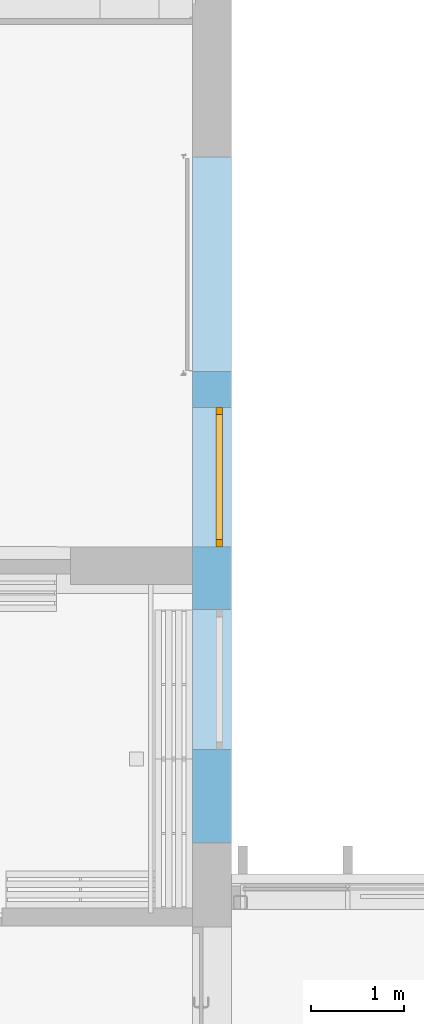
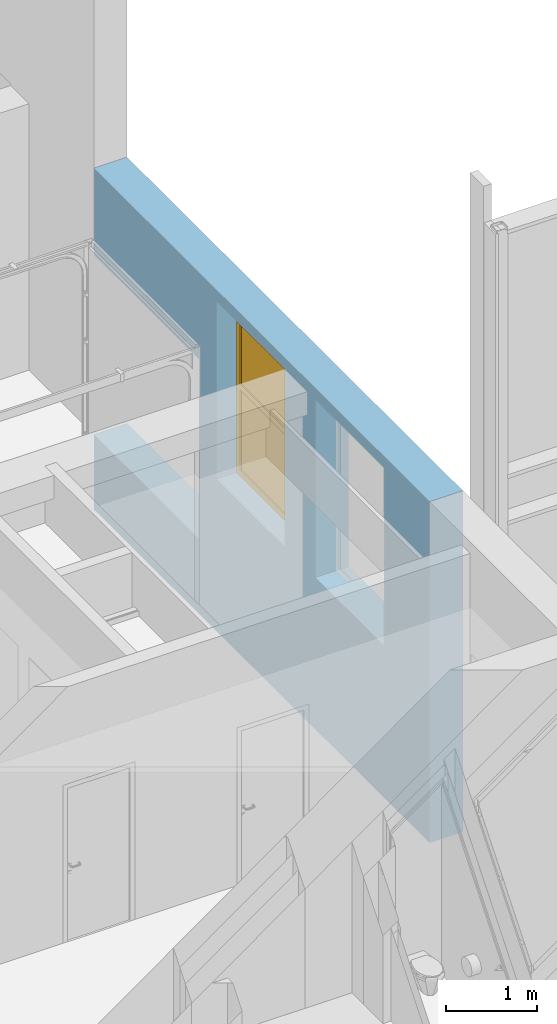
# One storey, part 95 of 301: 1 window, 5 openings, plus 1 element that does not belong to this part.
"""IFC2X3 building model written with IfcOpenShell, lengths in millimetres."""

import ifcopenshell
import ifcopenshell.guid

model = None  # the IFC model being written
_history = None  # IfcOwnerHistory: only IFC2X3 demands one
_inside = {}  # id of a spatial element -> (the spatial element, [elements in it])
_under = {}  # id of a project, library or spatial element -> (it, [spatial elements below it])
_declared = {}  # id of a project -> (the project, [libraries it declares])
_typed = {}  # id of a type object -> (the type object, [elements of that type])
_made_of = {}  # id of a material, layer set ... -> (it, [elements and type objects made of it])


def new_model(schema):
    """Start an empty IFC model of exactly this schema.

    Asked for "IFC4X3", IfcOpenShell would pick the latest addendum, in which some entities
    have other attributes; the version numbers below select the first issue.
    IFC2X3 requires an IfcOwnerHistory on every rooted entity: one is made here for all.
    """
    global model, _history
    if schema == "IFC4X3":
        model = ifcopenshell.file(schema_version=(4, 3, 0, 0))
    else:
        model = ifcopenshell.file(schema=schema)
    _inside.clear()
    _under.clear()
    _declared.clear()
    _typed.clear()
    _made_of.clear()
    _history = None
    if model.schema == "IFC2X3":
        org = make("IfcOrganization", Name="unknown")
        user = make(
            "IfcPersonAndOrganization",
            ThePerson=make("IfcPerson", FamilyName="unknown"),
            TheOrganization=org,
        )
        app = make(
            "IfcApplication",
            ApplicationDeveloper=org,
            Version="unknown",
            ApplicationFullName="unknown",
            ApplicationIdentifier="unknown",
        )
        _history = make(
            "IfcOwnerHistory",
            OwningUser=user,
            OwningApplication=app,
            ChangeAction="ADDED",
            CreationDate=0,
        )
    return model


def make(cls, **values):
    """One entity of the class cls with the attributes given. An attribute that is None is left unset."""
    return model.create_entity(
        cls, **{name: value for name, value in values.items() if value is not None}
    )


def entity(cls, *values):
    """Any entity or typed value of the class cls, its attributes in the order of the schema. None: left unset."""
    e = model.create_entity(cls)
    for i, value in enumerate(values):
        if value is not None:
            e[i] = value
    return e


def rooted(cls, **values):
    """An entity with a GlobalId (a new one), such as an element, a storey or a relation."""
    return make(cls, GlobalId=ifcopenshell.guid.new(), OwnerHistory=_history, **values)


def si_unit(unit_type, name, prefix=None):
    """IfcSIUnit, for example si_unit("LENGTHUNIT", "METRE", prefix="MILLI")."""
    return make("IfcSIUnit", UnitType=unit_type, Prefix=prefix, Name=name)


def converted_unit(unit_type, name, factor, base, dimensions=None, offset=None):
    """IfcConversionBasedUnit, such as the inch: factor (a typed value) times the base unit."""
    return make(
        "IfcConversionBasedUnit"
        if offset is None
        else "IfcConversionBasedUnitWithOffset",
        ConversionOffset=offset,
        Dimensions=None
        if dimensions is None
        else entity("IfcDimensionalExponents", *dimensions),
        UnitType=unit_type,
        Name=name,
        ConversionFactor=make(
            "IfcMeasureWithUnit", ValueComponent=factor, UnitComponent=base
        ),
    )


def derived_unit(unit_type, elements):
    """IfcDerivedUnit: a product of units, each with its exponent."""
    return make(
        "IfcDerivedUnit",
        Elements=[
            make("IfcDerivedUnitElement", Unit=unit, Exponent=power)
            for unit, power in elements
        ],
        UnitType=unit_type,
    )


def money_unit(currency):
    """IfcMonetaryUnit."""
    return make("IfcMonetaryUnit", Currency=currency)


def assignment(units):
    """IfcUnitAssignment: the units of a project."""
    return None if units is None else make("IfcUnitAssignment", Units=units)


def point(xyz):
    """IfcCartesianPoint."""
    return None if xyz is None else make("IfcCartesianPoint", Coordinates=xyz)


def direction(xyz):
    """IfcDirection."""
    return None if xyz is None else make("IfcDirection", DirectionRatios=xyz)


def frame(location, z_axis=None, x_axis=None):
    """IfcAxis2Placement3D, a coordinate frame: its origin and axes. An axis left out is left unset."""
    return make(
        "IfcAxis2Placement3D",
        Location=point(location),
        Axis=direction(z_axis),
        RefDirection=direction(x_axis),
    )


def origin_with_axes():
    """The frame at (0, 0, 0) with the z axis (0, 0, 1) and the x axis (1, 0, 0) written out."""
    return frame((0.0, 0.0, 0.0), z_axis=(0.0, 0.0, 1.0), x_axis=(1.0, 0.0, 0.0))


def place(relative_to, where):
    """IfcLocalPlacement: puts the frame where relative to a parent placement (None: the world)."""
    return make(
        "IfcLocalPlacement", PlacementRelTo=relative_to, RelativePlacement=where
    )


def context(
    kind, dimensions, precision=None, world=None, true_north=None, identifier=None
):
    """IfcGeometricRepresentationContext, for example the 3D "Model" context."""
    return make(
        "IfcGeometricRepresentationContext",
        ContextIdentifier=identifier,
        ContextType=kind,
        CoordinateSpaceDimension=dimensions,
        Precision=precision,
        WorldCoordinateSystem=world,
        TrueNorth=true_north,
    )


def subcontext(parent, identifier, kind, view, scale=None):
    """IfcGeometricRepresentationSubContext, for example "Body" below "Model"."""
    return make(
        "IfcGeometricRepresentationSubContext",
        ContextIdentifier=identifier,
        ContextType=kind,
        ParentContext=parent,
        TargetScale=scale,
        TargetView=view,
    )


def project(units=None, contexts=None):
    """IfcProject with its units and contexts."""
    return rooted(
        "IfcProject",
        Name="project",
        RepresentationContexts=contexts,
        UnitsInContext=assignment(units),
    )


def spatial(cls, under=None, at=None, **own):
    """A site, building, storey or space (cls), placed at a placement, below another one or the project."""
    s = rooted(cls, ObjectPlacement=at, **own)
    if under is not None:
        _under.setdefault(under.id(), (under, []))[1].append(s)
    return s


def faces_of(points, faces, orient=None, outer=None):
    """IfcFace entities. A face is a list of loops; a loop is a list of indices into points, from 0.

    orient and outer hold one flag for each loop. By default every Orientation is true, the
    first loop of a face is its IfcFaceOuterBound and the others are IfcFaceBound.
    """
    made = []
    for i, loops in enumerate(faces):
        bounds = []
        for j, loop in enumerate(loops):
            is_outer = j == 0 if outer is None else outer[i][j]
            bounds.append(
                make(
                    "IfcFaceOuterBound" if is_outer else "IfcFaceBound",
                    Bound=make("IfcPolyLoop", Polygon=[points[k] for k in loop]),
                    Orientation=True if orient is None else orient[i][j],
                )
            )
        made.append(make("IfcFace", Bounds=bounds))
    return made


def open_shell(faces, orient=None, outer=None):
    """The faces of one IfcOpenShell. surface_model builds it on its shared points."""
    return ("IfcOpenShell", faces, orient, outer)


def faceted_brep(points, faces, orient=None, outer=None, voids=None):
    """IfcFacetedBrep: a solid bounded by flat faces; with voids (closed shells), ...WithVoids."""
    shared = [point(p) for p in points]
    hull = make("IfcClosedShell", CfsFaces=faces_of(shared, faces, orient, outer))
    if voids is None:
        return make("IfcFacetedBrep", Outer=hull)
    return make(
        "IfcFacetedBrepWithVoids",
        Outer=hull,
        Voids=[
            make(cls, CfsFaces=faces_of(shared, fs, o, b)) for cls, fs, o, b in voids
        ],
    )


def surface_model(cls, points, shells):
    """IfcFaceBasedSurfaceModel or IfcShellBasedSurfaceModel (cls): surfaces that need not close."""
    shared = [point(p) for p in points]
    made = [make(c, CfsFaces=faces_of(shared, fs, o, b)) for c, fs, o, b in shells]
    if cls == "IfcFaceBasedSurfaceModel":
        return make(cls, FbsmFaces=made)
    return make(cls, SbsmBoundary=made)


def shape(context_of_items, identifier, shape_type, items):
    """IfcShapeRepresentation: the items that make up one representation, for example the "Body"."""
    return make(
        "IfcShapeRepresentation",
        ContextOfItems=context_of_items,
        RepresentationIdentifier=identifier,
        RepresentationType=shape_type,
        Items=items,
    )


def source(mapping_origin, context_of_items, identifier, shape_type, items):
    """IfcRepresentationMap: a shape defined once, which mapped items show again and again."""
    return make(
        "IfcRepresentationMap",
        MappingOrigin=mapping_origin,
        MappedRepresentation=shape(context_of_items, identifier, shape_type, items),
    )


def transform(
    local_origin,
    x_axis=None,
    y_axis=None,
    z_axis=None,
    scale=None,
    scale2=None,
    scale3=None,
    uniform=True,
):
    """IfcCartesianTransformationOperator3D, or its non-uniform kind. x_axis, y_axis, z_axis: its Axis1, 2, 3."""
    if uniform:
        return make(
            "IfcCartesianTransformationOperator3D",
            Axis1=direction(x_axis),
            Axis2=direction(y_axis),
            LocalOrigin=point(local_origin),
            Scale=scale,
            Axis3=direction(z_axis),
        )
    return make(
        "IfcCartesianTransformationOperator3DnonUniform",
        Axis1=direction(x_axis),
        Axis2=direction(y_axis),
        LocalOrigin=point(local_origin),
        Scale=scale,
        Axis3=direction(z_axis),
        Scale2=scale2,
        Scale3=scale3,
    )


def mapped(mapping_source, mapping_target):
    """IfcMappedItem: shows the shape of a source again, moved by a transform."""
    return make(
        "IfcMappedItem", MappingSource=mapping_source, MappingTarget=mapping_target
    )


def material(Name=None, Category=None):
    """IfcMaterial."""
    return make("IfcMaterial", Name=Name, Category=Category)


def made_of(thing, what):
    """Note that an element or type object is made of a material, layer set ...; save() writes the relation."""
    if what is not None:
        _made_of.setdefault(what.id(), (what, []))[1].append(thing)
    return thing


def type_object(cls, material=None, **own):
    """A type object (cls), such as IfcWallType, which elements share."""
    return made_of(rooted(cls, **own), material)


def element(
    cls,
    number,
    at=None,
    inside=None,
    cuts=None,
    type_object=None,
    material=None,
    context=None,
    identifier="Body",
    shape_type=None,
    held_by="IfcProductDefinitionShape",
    body=None,
    shapes=None,
    **own,
):
    """One element of the class cls, such as IfcWall. Its Tag is "e" and its number.

    at: its placement. inside: the storey or other place that contains it. cuts: it is an
    opening in that element (IfcRelVoidsElement). A single representation is given by context,
    identifier, shape_type and body (its items); several are given by shapes. held_by: the class
    of the entity that holds the representations. save() writes the other relations.
    """
    e = rooted(cls, Tag="e%d" % number, ObjectPlacement=at, **own)
    if body is not None:
        shapes = [shape(context, identifier, shape_type, body)]
    if shapes is not None:
        e.Representation = make(held_by, Representations=shapes)
    if inside is not None:
        _inside.setdefault(inside.id(), (inside, []))[1].append(e)
    if cuts is not None:
        rooted(
            "IfcRelVoidsElement", RelatingBuildingElement=cuts, RelatedOpeningElement=e
        )
    if type_object is not None:
        _typed.setdefault(type_object.id(), (type_object, []))[1].append(e)
    return made_of(e, material)


def fill(opening, filler):
    """IfcRelFillsElement: the door or window that sits in an opening."""
    return rooted(
        "IfcRelFillsElement",
        RelatingOpeningElement=opening,
        RelatedBuildingElement=filler,
    )


def aggregate(whole, parts):
    """IfcRelAggregates: a whole, such as a stair, and the parts it consists of."""
    return rooted("IfcRelAggregates", RelatingObject=whole, RelatedObjects=parts)


def save(model, path):
    """Write the relations noted so far, then the file.

    IfcRelAggregates (storeys below a building ...), IfcRelContainedInSpatialStructure (elements
    in a storey), IfcRelDefinesByType, IfcRelAssociatesMaterial and IfcRelDeclares: one each for
    every whole, place, type object, material and project.
    """
    for whole, parts in _under.values():
        aggregate(whole, parts)
    for where, things in _inside.values():
        rooted(
            "IfcRelContainedInSpatialStructure",
            RelatedElements=things,
            RelatingStructure=where,
        )
    for kind, things in _typed.values():
        rooted("IfcRelDefinesByType", RelatedObjects=things, RelatingType=kind)
    for what, things in _made_of.values():
        rooted("IfcRelAssociatesMaterial", RelatedObjects=things, RelatingMaterial=what)
    for by, libraries in _declared.values():
        rooted("IfcRelDeclares", RelatingContext=by, RelatedDefinitions=libraries)
    model.write(path)


model = new_model("IFC2X3")

# Units and contexts
model_context = context("Model", 3, precision=0.01, world=origin_with_axes(), true_north=direction((0.0, 1.0)))
body_context = subcontext(model_context, "Body", "Model", "MODEL_VIEW")
ifc_project = project(units=[si_unit("LENGTHUNIT", "METRE", prefix="MILLI"), si_unit("AREAUNIT", "SQUARE_METRE"), si_unit("VOLUMEUNIT", "CUBIC_METRE"), converted_unit("PLANEANGLEUNIT", "DEGREE", entity("IfcPlaneAngleMeasure", 0.0174532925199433), si_unit("PLANEANGLEUNIT", "RADIAN"), dimensions=[0, 0, 0, 0, 0, 0, 0]), money_unit("EUR"), converted_unit("TIMEUNIT", "Year", entity("IfcTimeMeasure", 31557600.0), si_unit("TIMEUNIT", "SECOND"), dimensions=[0, 0, 1, 0, 0, 0, 0]), si_unit("MASSUNIT", "GRAM", prefix="KILO"), si_unit("THERMODYNAMICTEMPERATUREUNIT", "DEGREE_CELSIUS"), si_unit("LUMINOUSINTENSITYUNIT", "LUMEN"), si_unit("ENERGYUNIT", "JOULE", prefix="MEGA"), derived_unit("THERMALCONDUCTANCEUNIT", [(si_unit("POWERUNIT", "WATT"), 1), (si_unit("LENGTHUNIT", "METRE"), -1), (si_unit("THERMODYNAMICTEMPERATUREUNIT", "KELVIN"), -1)]), derived_unit("SPECIFICHEATCAPACITYUNIT", [(si_unit("ENERGYUNIT", "JOULE"), 1), (si_unit("MASSUNIT", "GRAM", prefix="KILO"), -1), (si_unit("THERMODYNAMICTEMPERATUREUNIT", "KELVIN"), -1)]), derived_unit("MASSDENSITYUNIT", [(si_unit("MASSUNIT", "GRAM", prefix="KILO"), 1), (si_unit("VOLUMEUNIT", "CUBIC_METRE"), -1)])], contexts=[model_context])

# Site, building, storey
site_placement = place(None, frame((0.0, 0.0, 8650.0), z_axis=(0.0, 0.0, 1.0), x_axis=(1.0, 0.0, 0.0)))
site = spatial("IfcSite", under=ifc_project, at=site_placement, Name="43301:001:0844", CompositionType="ELEMENT")
building_placement = place(site_placement, origin_with_axes())
building = spatial("IfcBuilding", under=site, at=building_placement, Name="Kuressaare Ametikooli tuulikute mehaanikute õppekorpus", CompositionType="ELEMENT")
storey_placement = place(building_placement, origin_with_axes())
storey = spatial("IfcBuildingStorey", under=building, at=storey_placement, Name="1.korrus", CompositionType="ELEMENT", Elevation=0.0)

# Wall, openings, window
ifc_material = material(Name="GENEERILINE - KONSTRUKTRIOON")
wall_type = type_object("IfcWallType", Name="GENEERILINE - KONSTRUKTRIOON 420", PredefinedType="NOTDEFINED")
wall_placement = place(storey_placement, frame((103647.5122070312, 36425.81475378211, -1000.0), z_axis=(0.0, 0.0, 1.0), x_axis=(0.0, -1.0, 0.0)))
wall = element("IfcWall", 1, at=wall_placement, inside=storey, type_object=wall_type, material=ifc_material, Name="VS-XX", context=body_context, shape_type="Brep", body=[
    faceted_brep([(2300.000000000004, 0.0, 1000.0), (2300.000000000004, 0.0, 3400.0), (0.0, 0.0, 3400.0), (0.0, 0.0, 4560.000000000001), (7351.735894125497, 0.0, 4560.000000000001), (7351.735894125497, 0.0, 0.0), (0.0, 0.0, 0.0), (0.0, 0.0, 1000.0), (6351.204119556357, 0.0, 2030.0), (6351.204119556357, 0.0, 4410.0), (4851.204119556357, 0.0, 4410.0), (4851.204119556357, 0.0, 2030.0), (2681.805255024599, 0.0, 4410.0), (2681.805255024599, 0.0, 2030.0), (4181.805255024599, 0.0, 2030.0), (4181.805255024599, 0.0, 4410.0), (2300.000000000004, -420.0000000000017, 1000.0), (2300.000000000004, -420.0000000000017, 3400.0), (0.0, -420.0000000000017, 3400.0), (0.0, -420.0000000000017, 4560.000000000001), (7351.735894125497, -420.0000000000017, 4560.000000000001), (7351.735894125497, -420.0000000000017, 0.0), (0.0, -420.0000000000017, 0.0), (0.0, -420.0000000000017, 1000.0), (6351.204119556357, -420.0000000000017, 2030.0), (6351.204119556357, -420.0000000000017, 4410.0), (4851.204119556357, -420.0000000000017, 4410.0), (4851.204119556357, -420.0000000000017, 2030.0), (2681.805255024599, -420.0000000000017, 4410.0), (2681.805255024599, -420.0000000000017, 2030.0), (4181.805255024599, -420.0000000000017, 2030.0), (4181.805255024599, -420.0000000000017, 4410.0)], [[[0, 1, 2, 3, 4, 5, 6, 7], [8, 9, 10, 11], [12, 13, 14, 15]], [[1, 0, 16, 17]], [[18, 2, 1, 17]], [[2, 18, 19, 3]], [[20, 4, 3, 19]], [[20, 21, 5, 4]], [[5, 21, 22, 6]], [[23, 7, 6, 22]], [[0, 7, 23, 16]], [[8, 24, 25, 9]], [[10, 9, 25, 26]], [[11, 10, 26, 27]], [[11, 27, 24, 8]], [[28, 29, 13, 12]], [[30, 14, 13, 29]], [[31, 15, 14, 30]], [[31, 28, 12, 15]], [[16, 23, 22, 21, 20, 19, 18, 17], [25, 24, 27, 26], [29, 28, 31, 30]]]),
])
opening_1_placement = place(wall_placement, frame((5601.204119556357, 0.0, 2030.0), z_axis=(0.0, 0.0, 1.0), x_axis=(1.0, 0.0, 0.0)))
element("IfcOpeningElement", 2, at=opening_1_placement, cuts=wall, context=body_context, shape_type="Brep", body=[
    faceted_brep([(-750.0, -100.0000000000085, 0.0), (-750.0, -100.0000000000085, 2380.0), (-750.0, 1.000000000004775, 2380.0), (-750.0, 1.000000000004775, 0.0), (-750.0, -421.0000000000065, 0.0), (-750.0, -421.0000000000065, 2380.0), (750.0, -100.0000000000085, 2380.0), (750.0, 1.000000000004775, 2380.0), (750.0, 1.000000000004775, 0.0), (750.0, -100.0000000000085, 0.0), (750.0, -421.0000000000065, 0.0), (750.0, -421.0000000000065, 2380.0)], [[[0, 1, 2, 3]], [[1, 0, 4, 5]], [[1, 6, 7, 2]], [[8, 3, 2, 7]], [[9, 0, 3, 8]], [[0, 9, 10, 4]], [[5, 4, 10, 11]], [[6, 1, 5, 11]], [[6, 9, 8, 7]], [[9, 6, 11, 10]]]),
])
opening_2_placement = place(wall_placement, frame((3431.805255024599, 0.0, 2030.0), z_axis=(0.0, 0.0, 1.0), x_axis=(1.0, 0.0, 0.0)))
opening_2 = element("IfcOpeningElement", 3, at=opening_2_placement, cuts=wall, Name="VA-XX", context=body_context, shape_type="Brep", body=[
    faceted_brep([(-750.0, -100.0000000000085, 0.0), (-750.0, -100.0000000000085, 2380.0), (-750.0, 1.000000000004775, 2380.0), (-750.0, 1.000000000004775, 0.0), (-750.0, -421.0000000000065, 0.0), (-750.0, -421.0000000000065, 2380.0), (750.0, -100.0000000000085, 2380.0), (750.0, 1.000000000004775, 2380.0), (750.0, -421.0000000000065, 2380.0), (750.0, 1.000000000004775, 0.0), (750.0, -100.0000000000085, 0.0), (750.0, -421.0000000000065, 0.0)], [[[0, 1, 2, 3]], [[1, 0, 4, 5]], [[6, 7, 2, 1, 5, 8]], [[7, 9, 3, 2]], [[0, 3, 9, 10, 11, 4]], [[5, 4, 11, 8]], [[6, 10, 9, 7]], [[10, 6, 8, 11]]]),
])
opening_3_placement = place(wall_placement, frame((5601.204119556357, 0.0, 2030.0), z_axis=(0.0, 0.0, 1.0), x_axis=(1.0, 0.0, 0.0)))
element("IfcOpeningElement", 4, at=opening_3_placement, cuts=wall, Name="AL-3,EI120", context=body_context, shape_type="Brep", body=[
    faceted_brep([(-750.0, -100.0000000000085, 0.0), (-750.0, -100.0000000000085, 2380.0), (-750.0, 1.000000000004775, 2380.0), (-750.0, 1.000000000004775, 0.0), (-750.0, -421.0000000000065, 0.0), (-750.0, -421.0000000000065, 2380.0), (750.0, -100.0000000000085, 2380.0), (750.0, 1.000000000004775, 2380.0), (750.0, -421.0000000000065, 2380.0), (750.0, 1.000000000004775, 0.0), (750.0, -100.0000000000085, 0.0), (750.0, -421.0000000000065, 0.0)], [[[0, 1, 2, 3]], [[1, 0, 4, 5]], [[6, 7, 2, 1, 5, 8]], [[7, 9, 3, 2]], [[0, 3, 9, 10, 11, 4]], [[5, 4, 11, 8]], [[6, 10, 9, 7]], [[10, 6, 8, 11]]]),
])
opening_4_placement = place(wall_placement, frame((5601.204119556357, 0.0, 2030.0), z_axis=(0.0, 0.0, 1.0), x_axis=(1.0, 0.0, 0.0)))
element("IfcOpeningElement", 5, at=opening_4_placement, cuts=wall, context=body_context, shape_type="Brep", body=[
    faceted_brep([(-750.0, -100.0000000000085, 0.0), (-750.0, -100.0000000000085, 2380.0), (-750.0, 1.000000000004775, 2380.0), (-750.0, 1.000000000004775, 0.0), (-750.0, -421.0000000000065, 0.0), (-750.0, -421.0000000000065, 2380.0), (750.0, -100.0000000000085, 2380.0), (750.0, 1.000000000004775, 2380.0), (750.0, 1.000000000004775, 0.0), (750.0, -100.0000000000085, 0.0), (750.0, -421.0000000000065, 0.0), (750.0, -421.0000000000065, 2380.0)], [[[0, 1, 2, 3]], [[1, 0, 4, 5]], [[1, 6, 7, 2]], [[8, 3, 2, 7]], [[9, 0, 3, 8]], [[0, 9, 10, 4]], [[5, 4, 10, 11]], [[6, 1, 5, 11]], [[6, 9, 8, 7]], [[9, 6, 11, 10]]]),
])
opening_5_placement = place(wall_placement, frame((1150.000000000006, 0.0, 1000.0), z_axis=(0.0, 0.0, 1.0), x_axis=(1.0, 0.0, 0.0)))
element("IfcOpeningElement", 6, at=opening_5_placement, cuts=wall, context=body_context, shape_type="Brep", body=[
    faceted_brep([(-1149.999999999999, -421.0000000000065, 2400.0), (-1149.999999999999, -421.0000000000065, 0.0), (1149.999999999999, -421.0000000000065, 0.0), (1149.999999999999, -421.0000000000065, 2400.0), (-1149.999999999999, 1.000000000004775, 2400.0), (-1149.999999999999, 1.000000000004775, 0.0), (1149.999999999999, 1.000000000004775, 0.0), (1149.999999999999, 1.000000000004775, 2400.0)], [[[0, 1, 2, 3]], [[4, 5, 1, 0]], [[5, 6, 2, 1]], [[6, 7, 3, 2]], [[7, 4, 0, 3]], [[6, 5, 4, 7]]]),
])
window_style = type_object("IfcWindowStyle", Name="Window 27", ConstructionType="NOTDEFINED", OperationType="DOUBLE_PANEL_HORIZONTAL", ParameterTakesPrecedence=False, Sizeable=False)
shared_shape = source(origin_with_axes(), body_context, "Body", "SurfaceModel", [
    faceted_brep([(-670.0000000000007, -65.00000000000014, 1150.0), (-670.0000000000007, 0.0, 1150.0), (-670.0000000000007, 0.0, 1230.0), (-670.0000000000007, -65.00000000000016, 1230.0), (-670.0000000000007, -65.00000000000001, 80.0), (-670.0000000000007, 0.0, 80.00000000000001), (-750.0000000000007, 0.0, 80.00000000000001), (-750.0000000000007, 0.0, 2300.0), (-670.0000000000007, 0.0, 2300.0), (-670.0000000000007, -65.00000000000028, 2300.0), (-750.0000000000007, -65.00000000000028, 2300.0), (-750.0000000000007, -65.00000000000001, 80.0)], [[[0, 1, 2, 3]], [[4, 5, 1, 0]], [[1, 5, 6, 7, 8, 2]], [[3, 2, 8, 9]], [[0, 3, 9, 10, 11, 4]], [[11, 6, 5, 4]], [[10, 7, 6, 11]], [[9, 8, 7, 10]]]),
    faceted_brep([(670.0000000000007, -65.00000000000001, 80.0), (670.0000000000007, 0.0, 80.00000000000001), (750.0000000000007, 0.0, 80.00000000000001), (750.0000000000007, -65.00000000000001, 80.0), (670.0000000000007, -65.00000000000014, 1150.0), (670.0000000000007, 0.0, 1150.0), (670.0000000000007, 0.0, 1230.0), (670.0000000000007, 0.0, 2300.0), (750.0000000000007, 0.0, 2300.0), (750.0000000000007, -65.00000000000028, 2300.0), (670.0000000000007, -65.00000000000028, 2300.0), (670.0000000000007, -65.00000000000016, 1230.0)], [[[0, 1, 2, 3]], [[4, 5, 1, 0]], [[1, 5, 6, 7, 8, 2]], [[3, 2, 8, 9]], [[0, 3, 9, 10, 11, 4]], [[11, 6, 5, 4]], [[10, 7, 6, 11]], [[9, 8, 7, 10]]]),
    faceted_brep([(-670.0000000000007, -65.00000000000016, 1230.0), (-670.0000000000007, 0.0, 1230.0), (-670.0000000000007, 0.0, 1150.0), (-670.0000000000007, -65.00000000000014, 1150.0), (670.0000000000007, -65.00000000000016, 1230.0), (670.0000000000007, 0.0, 1230.0), (670.0000000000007, 0.0, 1150.0), (670.0000000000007, -65.00000000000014, 1150.0)], [[[0, 1, 2, 3]], [[4, 5, 1, 0]], [[1, 5, 6, 2]], [[3, 2, 6, 7]], [[0, 3, 7, 4]], [[7, 6, 5, 4]]]),
    faceted_brep([(-670.0000000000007, -65.00000000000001, 80.0), (-670.0000000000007, 0.0, 80.00000000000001), (-750.0000000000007, 0.0, 80.00000000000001), (-750.0000000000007, -65.00000000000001, 80.0), (670.0000000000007, -65.00000000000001, 80.0), (670.0000000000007, 0.0, 80.00000000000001), (750.0000000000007, 0.0, 80.00000000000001), (750.0000000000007, 0.0, 0.0), (-750.0000000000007, 0.0, 0.0), (-750.0000000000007, -65.0, 0.0), (750.0000000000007, -65.0, 0.0), (750.0000000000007, -65.00000000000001, 80.0)], [[[0, 1, 2, 3]], [[4, 5, 1, 0]], [[1, 5, 6, 7, 8, 2]], [[3, 2, 8, 9]], [[0, 3, 9, 10, 11, 4]], [[11, 6, 5, 4]], [[10, 7, 6, 11]], [[9, 8, 7, 10]]]),
    faceted_brep([(670.0000000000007, -65.00000000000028, 2300.0), (670.0000000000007, 0.0, 2300.0), (750.0000000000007, 0.0, 2300.0), (750.0000000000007, -65.00000000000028, 2300.0), (-670.0000000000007, -65.00000000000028, 2300.0), (-670.0000000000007, 0.0, 2300.0), (-750.0000000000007, 0.0, 2300.0), (-750.0000000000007, 0.0, 2380.0), (750.0000000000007, 0.0, 2380.0), (750.0000000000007, -65.0000000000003, 2380.0), (-750.0000000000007, -65.0000000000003, 2380.0), (-750.0000000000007, -65.00000000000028, 2300.0)], [[[0, 1, 2, 3]], [[4, 5, 1, 0]], [[1, 5, 6, 7, 8, 2]], [[3, 2, 8, 9]], [[0, 3, 9, 10, 11, 4]], [[11, 6, 5, 4]], [[10, 7, 6, 11]], [[9, 8, 7, 10]]]),
    surface_model("IfcShellBasedSurfaceModel", [(-670.0000000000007, -35.00000000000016, 1230.0), (670.0000000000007, -35.00000000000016, 1230.0), (670.0000000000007, -35.00000000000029, 2300.0), (-670.0000000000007, -35.00000000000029, 2300.0)], [open_shell([[[0, 1, 2, 3]]])]),
    surface_model("IfcShellBasedSurfaceModel", [(-670.0000000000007, -15.00000000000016, 1230.0), (-670.0000000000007, -15.00000000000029, 2300.0), (670.0000000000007, -15.00000000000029, 2300.0), (670.0000000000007, -15.00000000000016, 1230.0)], [open_shell([[[0, 1, 2, 3]]])]),
    surface_model("IfcShellBasedSurfaceModel", [(-670.0000000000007, -35.0, 80.0), (670.0000000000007, -35.0, 80.0), (670.0000000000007, -35.00000000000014, 1150.0), (-670.0000000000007, -35.00000000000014, 1150.0)], [open_shell([[[0, 1, 2, 3]]])]),
    surface_model("IfcShellBasedSurfaceModel", [(-670.0000000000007, -15.0, 80.0), (-670.0000000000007, -15.00000000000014, 1150.0), (670.0000000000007, -15.00000000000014, 1150.0), (670.0000000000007, -15.0, 80.0)], [open_shell([[[0, 1, 2, 3]]])]),
])
window_placement = place(opening_2_placement, frame((750.0, 0.0, 0.0), z_axis=(0.0, 0.0, 1.0), x_axis=(-1.0, 0.0, 0.0)))
window = element("IfcWindow", 7, at=window_placement, inside=storey, type_object=window_style, Name="VA-XX", OverallHeight=2380.0, OverallWidth=1500.0, context=body_context, shape_type="MappedRepresentation", body=[
    mapped(shared_shape, transform((750.0, 165.0000000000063, 0.0))),
])
fill(opening_2, window)

save(model, "model.ifc")
